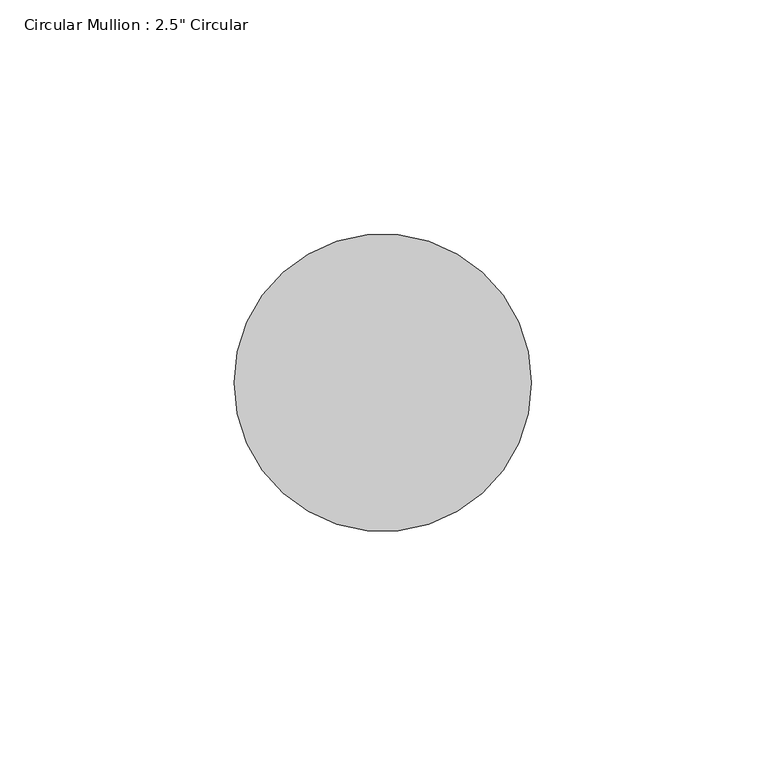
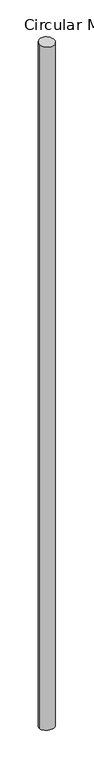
"""IFC4 building model written with IfcOpenShell, lengths in millimetres: member geometry."""

from ifc_helpers import new_model, si_unit, frame, origin, origin_with_axes, place, context, project, spatial, ellipse_curve, source, transform, mapped, element, save
from ifc_brep_helpers import plane_surface, cylinder_surface, advanced_brep


def member_678f4be6(model_context):
    return source(origin(), model_context, "Body", "AdvancedBrep", [
        advanced_brep(
        [(-31.75, 0.0, 0.6022579), (31.75, 0.0, -0.6022579), (31.75, 0.0, -3044.5731378), (-31.75, 0.0, -3046.1652858)],
        [
            (0, 1, ellipse_curve(frame((0.0, 0.0, 0.0), z_axis=(-0.018932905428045, 0.05846148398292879, -0.9981101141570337), x_axis=(-0.3075163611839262, 0.9495564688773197, 0.06145079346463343)), 31.8101175, 31.75)),
            (1, 2),
            (2, 3, ellipse_curve(frame((0.0, 0.0, -3045.3692118), z_axis=(-0.024987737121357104, 0.07861793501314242, 0.9965916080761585), x_axis=(0.3018733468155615, -0.9497722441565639, 0.0824934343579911)), 31.8585865, 31.75)),
            (3, 0),
            (1, 0, ellipse_curve(frame((0.0, 0.0, 0.0), z_axis=(-0.018932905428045, 0.05846148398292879, -0.9981101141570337), x_axis=(-0.3075163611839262, 0.9495564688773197, 0.06145079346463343)), 31.8101175, 31.75)),
            (3, 2, ellipse_curve(frame((0.0, 0.0, -3045.3692118), z_axis=(-0.024987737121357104, 0.07861793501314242, 0.9965916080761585), x_axis=(0.3018733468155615, -0.9497722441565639, 0.0824934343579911)), 31.8585865, 31.75)),
        ],
        [
            cylinder_surface(origin_with_axes(), 31.75),
            plane_surface(frame((289.9728273, 93.9084632, 0.0), z_axis=(0.018932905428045, -0.05846148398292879, 0.9981101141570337), x_axis=(0.30751636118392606, -0.9495564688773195, -0.0614507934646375))),
            plane_surface(frame((290.4806519, 92.3256782, -3045.3692118), z_axis=(0.024987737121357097, -0.0786179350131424, -0.9965916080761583), x_axis=(0.30187334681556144, -0.9497722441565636, 0.08249343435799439))),
        ],
        [
            (0, [[1, 2, 3, 4]]),
            (0, [[5, -4, 6, -2]]),
            (1, [[-1, -5]]),
            (2, [[-6, -3]]),
        ],
    ),
    ])


if __name__ == "__main__":
    model = new_model("IFC4")
    model_context = context("Model", 3, world=origin())
    ifc_project = project(units=[si_unit("LENGTHUNIT", "METRE", prefix="MILLI")], contexts=[model_context])
    site = spatial("IfcSite", under=ifc_project)
    building = spatial("IfcBuilding", under=site)
    placement = place(None, origin())
    member_shape = member_678f4be6(model_context)
    element("IfcMember", 1, ObjectType="Circular Mullion : 2.5\" Circular", at=placement, inside=building, context=model_context, shape_type="MappedRepresentation", body=[
        mapped(member_shape, transform((0.0, 0.0, 0.0), x_axis=(1.0, 0.0, 0.0), y_axis=(0.0, 1.0, 0.0), z_axis=(0.0, 0.0, 1.0))),
    ])
    save(model, "model.ifc")
